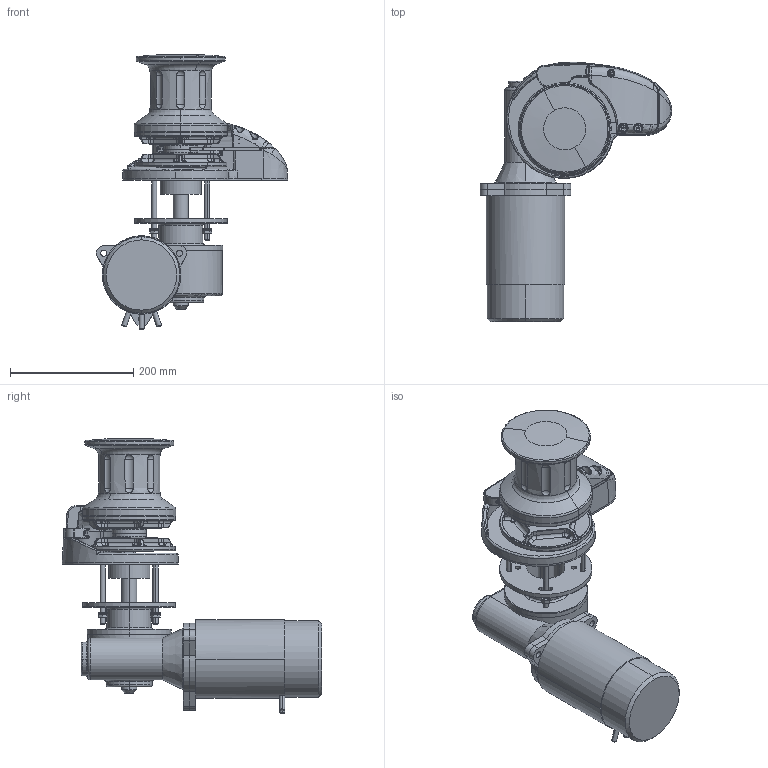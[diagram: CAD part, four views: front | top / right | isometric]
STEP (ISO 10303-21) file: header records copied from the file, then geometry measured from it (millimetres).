
FILE_DESCRIPTION((''),'2;1');
FILE_NAME('PARTE_SUPERIOREX3_ASM','2020-01-27T',('mario.candellari'),(''),'PRO/ENGINEER BY PARAMETRIC TECHNOLOGY CORPORATION, 2014090','PRO/ENGINEER BY PARAMETRIC TECHNOLOGY CORPORATION, 2014090','');
FILE_SCHEMA(('CONFIG_CONTROL_DESIGN'));
Length unit declared in the file: millimetre
Products named in the file (30): RM_SDB; A_C484C4934; A_C427B1846; A_C5A89004B; A_C287E0C71; A_C62AD0F4E; A_C79315B67; A_C5EC03639; RONDELLA_-_ISO_7092_-_8_-_140_H; DADO_ESAGONALE_-_ISO_4032_-_M8; PART2; VITE_CON_ESAGONO_INCASSATO-5271; VITE_CON_ESAGONO_INCASSA-184073; FRIZIONE_INTERNA; PART1; __BARBOTIN; VITE_CON_ESAGONO_INCASSA-293835; STACCACATENA; ANELLO_ELASTICO_DI_ARRES-406477; ANELLO_ELASTICO_DI_ARRES-409491; CUSCINETTO_A_SFERE__SCANALATURA; DISEGNO2_ASM; BASE_PROVA; CUFFIA_ORCHID; FINGER_ORCHID; HERON_DRUM; RID606; MOTORE; RID606_ASM; PARTE_SUPERIOREX3_ASM
Assembly tree (62 placements, depth 3):
  PARTE_SUPERIOREX3_ASM
    DISEGNO2_ASM
      RM_SDB  x14
      A_C484C4934
      A_C427B1846
      A_C5A89004B
      A_C287E0C71  x6
      A_C62AD0F4E
      A_C79315B67
      A_C5EC03639
      RONDELLA_-_ISO_7092_-_8_-_140_H  x4
      DADO_ESAGONALE_-_ISO_4032_-_M8  x4
      PART2  x4
      VITE_CON_ESAGONO_INCASSATO-5271
      VITE_CON_ESAGONO_INCASSA-184073  x2
      FRIZIONE_INTERNA  x2
      PART1
      __BARBOTIN  x2
      VITE_CON_ESAGONO_INCASSA-293835  x2
      STACCACATENA
      ANELLO_ELASTICO_DI_ARRES-406477
      ANELLO_ELASTICO_DI_ARRES-409491  x2
      CUSCINETTO_A_SFERE__SCANALATURA
    BASE_PROVA
    CUFFIA_ORCHID
    FINGER_ORCHID  x2
    HERON_DRUM
    RID606_ASM
      RID606
      MOTORE
Bounding box: 309.99 x 420.33 x 445.08 mm (x, y, z)
Volume: 6139274.9 mm3; surface area: 790447 mm2
Topology: 8 solids, 777 shells, 1919 faces, 6352 edges, 5175 vertices
Faces by surface type: cylinder 783, plane 436, bspline 245, cone 211, torus 190, sphere 42, extrusion 12
Entity records: 75224 total; most frequent: CARTESIAN_POINT 40085, DIRECTION 7336, ORIENTED_EDGE 6053, EDGE_CURVE 3947, VERTEX_POINT 3124, AXIS2_PLACEMENT_3D 2978, CIRCLE 1710, EDGE_LOOP 1438
